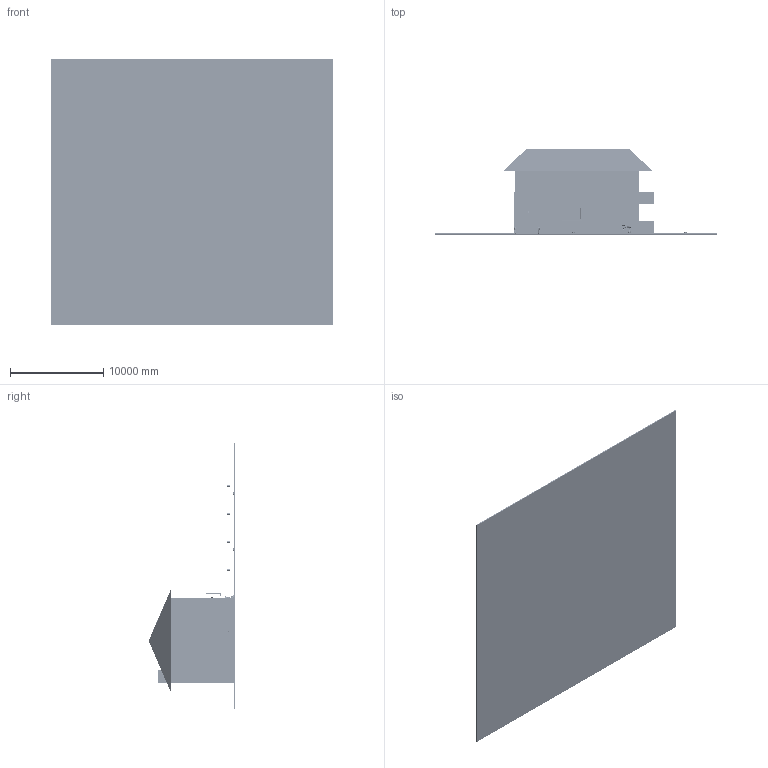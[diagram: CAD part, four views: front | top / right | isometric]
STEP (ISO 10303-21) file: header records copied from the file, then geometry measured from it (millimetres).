
FILE_DESCRIPTION(/* description */ (''),/* implementation_level */ '2;1');
FILE_NAME(/* name */ 'C:\Users\Ryzen5700u\Desktop\inventor\bifamiliare\step\Assieme_bifamiliare2.stp',/* time_stamp */ '2021-11-24T08:40:01+01:00',/* author */ ('Ryzen5700u'),/* organization */ (''),/* preprocessor_version */ 'ST-DEVELOPER v18.1',/* originating_system */ 'Autodesk Inventor 2022',/* authorisation */ '');
FILE_SCHEMA (('AUTOMOTIVE_DESIGN { 1 0 10303 214 3 1 1 }'));
Products named in the file (69): Assieme_bifamiliare2; bifamiliare3; giardino2; Garden lamp; wasserverteilung1; WAND; WARZENBLECH; BODEN; Tap; FILTERBAUGRUPPE; FILTERPLATTE; Schlauch2-1; Schlauch1-1; PMMA-GRUPPE; KUPPLUNG3-4; REDUZIERUNG; PMMA_LANG; FILTERGRUPPE; FILTER; KUPPLUNG1-2; GARDENA_1-2; VENTILBAUGRUPPE; SIGNAL; SUB-D-DOSE; SUB-D-STECKER; DECKEL; VERTEILERGRUPPE; PVC; PVC_ENDE; PVC_EIN; SCHLAUCHANSCHLUSS; PLATTE_1; PLATTE; VENTILGRUPPE; VENTIL; ANSCHLUSSSTUECK-PVC; VENTILZENTRIERUNG; SCHELLE-LINKS; SCHELLE-RECHTS; ZYLINDERSCHRAUBE - DIN 912 - M5 X 20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
Assembly tree (116 placements, depth 6):
  Assieme_bifamiliare2
    bifamiliare3
    giardino2
    Garden lamp  x8
    wasserverteilung1
      WAND
        WARZENBLECH
        BODEN
        Tap
        GARDENA_1-2
      FILTERBAUGRUPPE
        FILTERPLATTE
        Schlauch2-1  x2
        Schlauch1-1  x2
        PMMA-GRUPPE  x2
          KUPPLUNG3-4
            GARDENAKUPPLUNG_1-2_1
          REDUZIERUNG
          PMMA_LANG
          GARDENA_3-4
        FILTERGRUPPE  x2
          FILTER
          KUPPLUNG1-2
            GARDENAKUPPLUNG_1-2
          GARDENA_1-2
      VENTILBAUGRUPPE
        SIGNAL
          SUB-D-DOSE
          SUB-D-STECKER
          DECKEL
        VERTEILERGRUPPE
          PVC  x3
          PVC_ENDE
          PVC_EIN
        SCHLAUCHANSCHLUSS
        PLATTE_1
          PLATTE
        VENTILGRUPPE  x4
          REDUZIERUNG_1
          VENTIL
          ANSCHLUSSSTUECK-PVC
          VENTILZENTRIERUNG
          SCHELLE-LINKS
          SCHELLE-RECHTS
          ZYLINDERSCHRAUBE - DIN 912 - M5 X 20
          STIFT
        GARDENA_1-2_1  x2
        KUPPLUNG1-2_1  x2
          GARDENAKUPPLUNG_1-2
        GARDENA_3-4_1  x2
        KUPPLUNG3-4_1  x2
          GARDENAKUPPLUNG_1-2_1
        1
        2
        3
        4
      WANDBAUGRUPPE
        VORFILTER
          GEHAEUSE
          GLAS
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Bounding box: 30205.13 x 9285 x 28413.51 mm (x, y, z)
Volume: 320438436093.9 mm3; surface area: 5048468805.9 mm2
Topology: 201 solids, 220 shells, 16497 faces, 44640 edges, 29070 vertices
Faces by surface type: plane 7885, cylinder 7595, cone 342, bspline 305, torus 292, sphere 78
Full cylindrical faces by diameter (mm): 1.2 x1, 3 x2, 4.2 x16, 4.3 x18, 5 x32, 5.5 x20, 6 x8, 6.4 x16, 7.5 x24, 8 x59, 8.001 x3, 8.2 x2, 8.5 x16, 9 x15, 10 x10, 11 x16, 12 x3, 13 x8, 14 x20, 14.001 x2, 15 x7, 16 x19, 17 x21, 18 x13, 18.63 x1, 20 x53, 20.517 x1, 20.9 x1, 21 x6, 22 x14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
Entity records: 311444 total; most frequent: CARTESIAN_POINT 157710, DIRECTION 31689, ORIENTED_EDGE 30880, EDGE_CURVE 15450, AXIS2_PLACEMENT_3D 11193, VERTEX_POINT 9903, LINE 9303, VECTOR 9303
